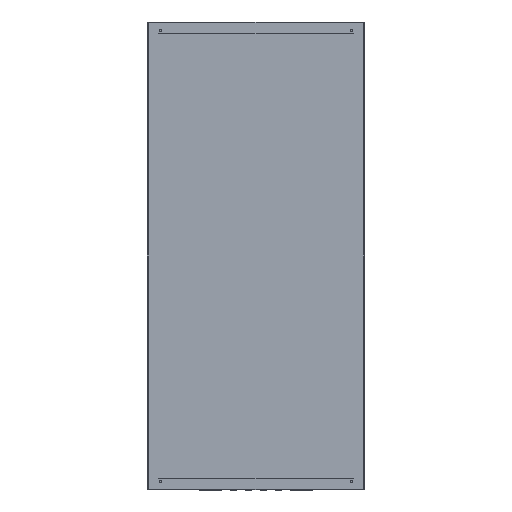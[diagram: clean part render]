
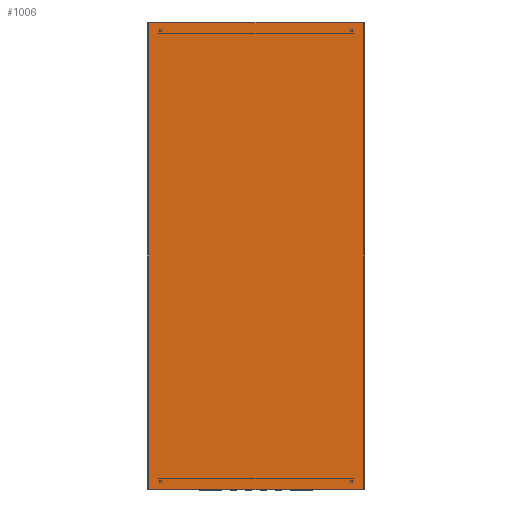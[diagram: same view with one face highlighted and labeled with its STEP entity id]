
A CAD part, front view. The second image highlights one B-rep face of the part: STEP entity #1006.
In plain terms, the highlighted planar face has unit normal (0, -1, 0).
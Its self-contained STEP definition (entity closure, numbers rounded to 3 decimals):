
#40 = CARTESIAN_POINT ( 'NONE',  ( 288.25, 0., 675. ) ) ;
#115 = EDGE_LOOP ( 'NONE', ( #7337, #5984 ) ) ;
#186 = CARTESIAN_POINT ( 'NONE',  ( 321.4, 0., 697.6 ) ) ;
#289 = EDGE_CURVE ( 'NONE', #11928, #10931, #3678, .T. ) ;
#311 = EDGE_CURVE ( 'NONE', #2009, #11928, #4234, .T. ) ;
#464 = EDGE_CURVE ( 'NONE', #10931, #2015, #10015, .T. ) ;
#488 = FACE_BOUND ( 'NONE', #1778, .T. ) ;
#506 = CIRCLE ( 'NONE', #9721, 3.25 ) ;
#590 = ORIENTED_EDGE ( 'NONE', *, *, #3309, .T. ) ;
#926 = CARTESIAN_POINT ( 'NONE',  ( -281.75, 0., -675. ) ) ;
#959 = CARTESIAN_POINT ( 'NONE',  ( 321.4, 0., 697.6 ) ) ;
#1006 = ADVANCED_FACE ( 'NONE', ( #4783, #4517, #488, #6537, #1664 ), #9058, .T. ) ;
#1255 = ORIENTED_EDGE ( 'NONE', *, *, #6345, .T. ) ;
#1507 = AXIS2_PLACEMENT_3D ( 'NONE', #6459, #3690, #4599 ) ;
#1664 = FACE_BOUND ( 'NONE', #115, .T. ) ;
#1696 = EDGE_LOOP ( 'NONE', ( #6314, #1255 ) ) ;
#1764 = AXIS2_PLACEMENT_3D ( 'NONE', #9003, #7133, #2628 ) ;
#1778 = EDGE_LOOP ( 'NONE', ( #9609, #590 ) ) ;
#1794 = AXIS2_PLACEMENT_3D ( 'NONE', #11025, #3712, #2620 ) ;
#1807 = CIRCLE ( 'NONE', #7087, 3.25 ) ;
#1822 = EDGE_CURVE ( 'NONE', #4787, #8081, #7072, .T. ) ;
#2009 = VERTEX_POINT ( 'NONE', #3300 ) ;
#2015 = VERTEX_POINT ( 'NONE', #3348 ) ;
#2068 = DIRECTION ( 'NONE',  ( 0., 1., 0. ) ) ;
#2486 = EDGE_CURVE ( 'NONE', #8901, #11788, #4878, .T. ) ;
#2620 = DIRECTION ( 'NONE',  ( 1., 0., 0. ) ) ;
#2628 = DIRECTION ( 'NONE',  ( -1., 0., 0. ) ) ;
#2721 = DIRECTION ( 'NONE',  ( 0., -1., 0. ) ) ;
#2907 = VECTOR ( 'NONE', #7186, 1000. ) ;
#2908 = DIRECTION ( 'NONE',  ( 1., 0., 0. ) ) ;
#2951 = VERTEX_POINT ( 'NONE', #6012 ) ;
#3300 = CARTESIAN_POINT ( 'NONE',  ( -321.4, 0., -697.6 ) ) ;
#3309 = EDGE_CURVE ( 'NONE', #2951, #6017, #5700, .T. ) ;
#3348 = CARTESIAN_POINT ( 'NONE',  ( -321.4, 0., 697.6 ) ) ;
#3357 = CARTESIAN_POINT ( 'NONE',  ( 285., 0., -675. ) ) ;
#3517 = DIRECTION ( 'NONE',  ( 0., 1., 0. ) ) ;
#3604 = ORIENTED_EDGE ( 'NONE', *, *, #289, .T. ) ;
#3678 = LINE ( 'NONE', #8052, #10462 ) ;
#3690 = DIRECTION ( 'NONE',  ( 0., 1., 0. ) ) ;
#3712 = DIRECTION ( 'NONE',  ( 0., 1., 0. ) ) ;
#4081 = EDGE_CURVE ( 'NONE', #6017, #2951, #506, .T. ) ;
#4124 = EDGE_CURVE ( 'NONE', #11788, #8901, #1807, .T. ) ;
#4234 = LINE ( 'NONE', #9024, #7555 ) ;
#4279 = DIRECTION ( 'NONE',  ( 0., 1., 0. ) ) ;
#4517 = FACE_BOUND ( 'NONE', #9305, .T. ) ;
#4572 = AXIS2_PLACEMENT_3D ( 'NONE', #6312, #2721, #10973 ) ;
#4599 = DIRECTION ( 'NONE',  ( -1., 0., 0. ) ) ;
#4610 = DIRECTION ( 'NONE',  ( 1., 0., 0. ) ) ;
#4783 = FACE_OUTER_BOUND ( 'NONE', #10785, .T. ) ;
#4787 = VERTEX_POINT ( 'NONE', #11827 ) ;
#4878 = CIRCLE ( 'NONE', #7260, 3.25 ) ;
#5046 = CARTESIAN_POINT ( 'NONE',  ( -288.25, 0., -675. ) ) ;
#5146 = ORIENTED_EDGE ( 'NONE', *, *, #2486, .T. ) ;
#5255 = CARTESIAN_POINT ( 'NONE',  ( 281.75, 0., 675. ) ) ;
#5285 = CARTESIAN_POINT ( 'NONE',  ( -321.4, 0., 697.6 ) ) ;
#5426 = CARTESIAN_POINT ( 'NONE',  ( 285., 0., -675. ) ) ;
#5429 = EDGE_CURVE ( 'NONE', #10733, #9197, #7932, .T. ) ;
#5476 = ORIENTED_EDGE ( 'NONE', *, *, #4124, .T. ) ;
#5700 = CIRCLE ( 'NONE', #1794, 3.25 ) ;
#5799 = LINE ( 'NONE', #5285, #2907 ) ;
#5864 = EDGE_CURVE ( 'NONE', #8081, #4787, #9786, .T. ) ;
#5984 = ORIENTED_EDGE ( 'NONE', *, *, #1822, .T. ) ;
#6012 = CARTESIAN_POINT ( 'NONE',  ( -288.25, 0., 675. ) ) ;
#6017 = VERTEX_POINT ( 'NONE', #6344 ) ;
#6196 = AXIS2_PLACEMENT_3D ( 'NONE', #3357, #4279, #7831 ) ;
#6312 = CARTESIAN_POINT ( 'NONE',  ( -322.6, 0., -700. ) ) ;
#6314 = ORIENTED_EDGE ( 'NONE', *, *, #5429, .T. ) ;
#6344 = CARTESIAN_POINT ( 'NONE',  ( -281.75, 0., 675. ) ) ;
#6345 = EDGE_CURVE ( 'NONE', #9197, #10733, #11491, .T. ) ;
#6459 = CARTESIAN_POINT ( 'NONE',  ( 285., 0., 675. ) ) ;
#6537 = FACE_BOUND ( 'NONE', #1696, .T. ) ;
#6585 = DIRECTION ( 'NONE',  ( 0., 1., 0. ) ) ;
#7072 = CIRCLE ( 'NONE', #8346, 3.25 ) ;
#7087 = AXIS2_PLACEMENT_3D ( 'NONE', #10307, #6585, #2908 ) ;
#7133 = DIRECTION ( 'NONE',  ( 0., 1., 0. ) ) ;
#7186 = DIRECTION ( 'NONE',  ( 0., 0., -1. ) ) ;
#7260 = AXIS2_PLACEMENT_3D ( 'NONE', #8167, #8208, #4610 ) ;
#7337 = ORIENTED_EDGE ( 'NONE', *, *, #5864, .T. ) ;
#7545 = VECTOR ( 'NONE', #7865, 1000. ) ;
#7555 = VECTOR ( 'NONE', #10726, 1000. ) ;
#7814 = CARTESIAN_POINT ( 'NONE',  ( 281.75, 0., -675. ) ) ;
#7831 = DIRECTION ( 'NONE',  ( -1., 0., 0. ) ) ;
#7865 = DIRECTION ( 'NONE',  ( -1., 0., 0. ) ) ;
#7932 = CIRCLE ( 'NONE', #1507, 3.25 ) ;
#8052 = CARTESIAN_POINT ( 'NONE',  ( 321.4, 0., -697.6 ) ) ;
#8081 = VERTEX_POINT ( 'NONE', #7814 ) ;
#8096 = DIRECTION ( 'NONE',  ( 0., 0., 1. ) ) ;
#8167 = CARTESIAN_POINT ( 'NONE',  ( -285., 0., -675. ) ) ;
#8208 = DIRECTION ( 'NONE',  ( 0., 1., 0. ) ) ;
#8342 = CARTESIAN_POINT ( 'NONE',  ( 321.4, 0., -697.6 ) ) ;
#8346 = AXIS2_PLACEMENT_3D ( 'NONE', #5426, #3517, #9072 ) ;
#8403 = DIRECTION ( 'NONE',  ( 1., 0., 0. ) ) ;
#8746 = EDGE_CURVE ( 'NONE', #2015, #2009, #5799, .T. ) ;
#8901 = VERTEX_POINT ( 'NONE', #926 ) ;
#9003 = CARTESIAN_POINT ( 'NONE',  ( 285., 0., 675. ) ) ;
#9024 = CARTESIAN_POINT ( 'NONE',  ( -321.4, 0., -697.6 ) ) ;
#9058 = PLANE ( 'NONE',  #4572 ) ;
#9072 = DIRECTION ( 'NONE',  ( -1., 0., 0. ) ) ;
#9197 = VERTEX_POINT ( 'NONE', #40 ) ;
#9274 = ORIENTED_EDGE ( 'NONE', *, *, #464, .T. ) ;
#9305 = EDGE_LOOP ( 'NONE', ( #5146, #5476 ) ) ;
#9609 = ORIENTED_EDGE ( 'NONE', *, *, #4081, .T. ) ;
#9721 = AXIS2_PLACEMENT_3D ( 'NONE', #11287, #2068, #8403 ) ;
#9786 = CIRCLE ( 'NONE', #6196, 3.25 ) ;
#9858 = ORIENTED_EDGE ( 'NONE', *, *, #8746, .T. ) ;
#10015 = LINE ( 'NONE', #959, #7545 ) ;
#10307 = CARTESIAN_POINT ( 'NONE',  ( -285., 0., -675. ) ) ;
#10462 = VECTOR ( 'NONE', #8096, 1000. ) ;
#10726 = DIRECTION ( 'NONE',  ( 1., 0., 0. ) ) ;
#10733 = VERTEX_POINT ( 'NONE', #5255 ) ;
#10785 = EDGE_LOOP ( 'NONE', ( #9274, #9858, #11182, #3604 ) ) ;
#10931 = VERTEX_POINT ( 'NONE', #186 ) ;
#10973 = DIRECTION ( 'NONE',  ( -1., 0., 0. ) ) ;
#11025 = CARTESIAN_POINT ( 'NONE',  ( -285., 0., 675. ) ) ;
#11182 = ORIENTED_EDGE ( 'NONE', *, *, #311, .T. ) ;
#11287 = CARTESIAN_POINT ( 'NONE',  ( -285., 0., 675. ) ) ;
#11491 = CIRCLE ( 'NONE', #1764, 3.25 ) ;
#11788 = VERTEX_POINT ( 'NONE', #5046 ) ;
#11827 = CARTESIAN_POINT ( 'NONE',  ( 288.25, 0., -675. ) ) ;
#11928 = VERTEX_POINT ( 'NONE', #8342 ) ;
